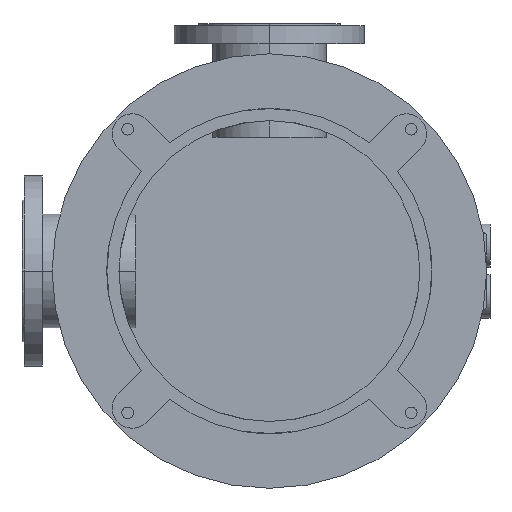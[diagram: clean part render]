
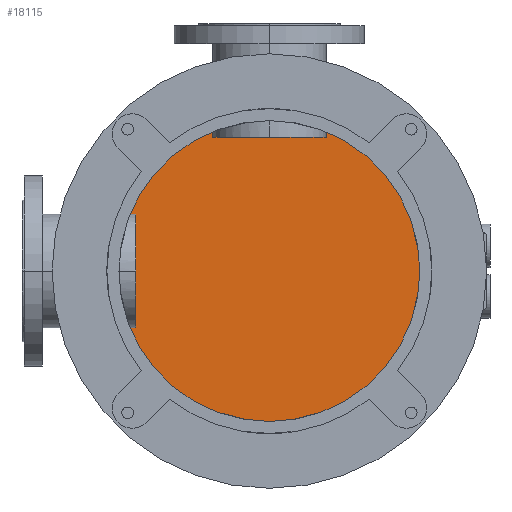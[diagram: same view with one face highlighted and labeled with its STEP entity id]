
A CAD part, front view. The second image highlights one B-rep face of the part: STEP entity #18115.
In plain terms, the highlighted planar face has unit normal (0, -1, 0).
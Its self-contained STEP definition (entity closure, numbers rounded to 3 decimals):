
#2786=CARTESIAN_POINT('',(0.,500.,0.));
#2787=DIRECTION('',(0.,-1.,0.));
#2788=DIRECTION('',(0.,0.,1.));
#2789=AXIS2_PLACEMENT_3D('',#2786,#2787,#2788);
#3043=CARTESIAN_POINT('',(0.,500.,0.));
#3044=DIRECTION('',(0.,-1.,0.));
#3045=DIRECTION('',(0.,0.,-1.));
#3046=AXIS2_PLACEMENT_3D('',#3043,#3044,#3045);
#8625=CARTESIAN_POINT('',(0.,500.,240.));
#8626=CARTESIAN_POINT('',(0.,500.,-240.));
#8627=VERTEX_POINT('',#8625);
#8628=VERTEX_POINT('',#8626);
#18106=CARTESIAN_POINT('',(0.,500.,0.));
#18107=DIRECTION('',(0.,1.,0.));
#18108=DIRECTION('',(0.,0.,-1.));
#18109=AXIS2_PLACEMENT_3D('',#18106,#18107,#18108);
#18110=PLANE('',#18109);
#18111=ORIENTED_EDGE('',*,*,#13778,.F.);
#18112=ORIENTED_EDGE('',*,*,#13952,.F.);
#18113=EDGE_LOOP('',(#18111,#18112));
#18114=FACE_OUTER_BOUND('',#18113,.F.);
#18115=ADVANCED_FACE('',(#18114),#18110,.F.);
#2790=CIRCLE('',#2789,240.);
#3047=CIRCLE('',#3046,240.);
#13778=EDGE_CURVE('',#8627,#8628,#2790,.T.);
#13952=EDGE_CURVE('',#8628,#8627,#3047,.T.);
